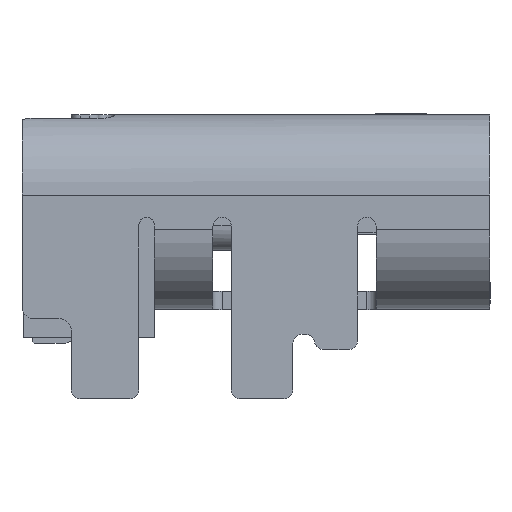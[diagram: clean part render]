
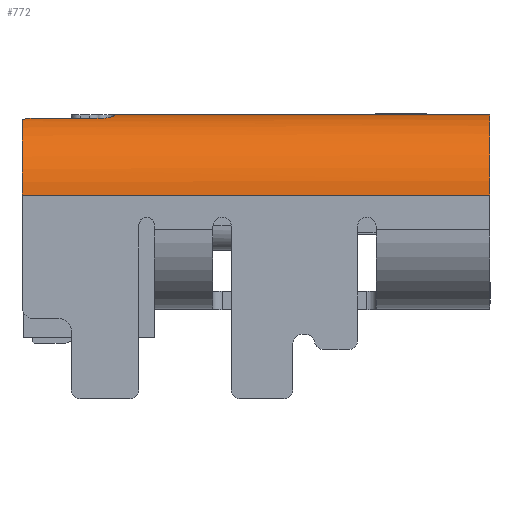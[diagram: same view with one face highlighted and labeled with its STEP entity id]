
A CAD part, left-side view. The second image highlights one B-rep face of the part: STEP entity #772.
In plain terms, the highlighted cylindrical face has radius 1.3 mm (diameter 2.6 mm), a partial arc.
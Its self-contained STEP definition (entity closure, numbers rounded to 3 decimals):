
#772 = ADVANCED_FACE ( 'NONE', ( #11300 ), #23499, .T. ) ;
#1054 = EDGE_CURVE ( 'NONE', #9412, #36254, #25395, .T. ) ;
#1444 = VERTEX_POINT ( 'NONE', #35022 ) ;
#3553 = CARTESIAN_POINT ( 'NONE',  ( 3.566, 7.544, -1.518 ) ) ;
#3965 = ORIENTED_EDGE ( 'NONE', *, *, #16748, .T. ) ;
#6577 = EDGE_CURVE ( 'NONE', #1444, #16086, #17908, .T. ) ;
#7388 = ORIENTED_EDGE ( 'NONE', *, *, #1054, .T. ) ;
#7713 = CARTESIAN_POINT ( 'NONE',  ( 3.556, 7.531, -1.521 ) ) ;
#7982 = CARTESIAN_POINT ( 'NONE',  ( 3.655, 7.599, -1.486 ) ) ;
#9412 = VERTEX_POINT ( 'NONE', #32437 ) ;
#10815 = CARTESIAN_POINT ( 'NONE',  ( 3.17, 7.6, -0.28 ) ) ;
#10895 = EDGE_CURVE ( 'NONE', #16086, #19910, #39307, .T. ) ;
#11026 = DIRECTION ( 'NONE',  ( 0., -1., 0. ) ) ;
#11039 = VECTOR ( 'NONE', #36094, 1000. ) ;
#11102 = VERTEX_POINT ( 'NONE', #15738 ) ;
#11143 = ORIENTED_EDGE ( 'NONE', *, *, #30288, .F. ) ;
#11300 = FACE_OUTER_BOUND ( 'NONE', #40870, .T. ) ;
#11447 = ORIENTED_EDGE ( 'NONE', *, *, #30992, .T. ) ;
#12141 = CARTESIAN_POINT ( 'NONE',  ( 3.63, 7.593, -1.496 ) ) ;
#12287 = DIRECTION ( 'NONE',  ( 0., 1., 0. ) ) ;
#14409 = CARTESIAN_POINT ( 'NONE',  ( 3.17, 0., -1.58 ) ) ;
#15738 = CARTESIAN_POINT ( 'NONE',  ( 3.676, 7.6, -1.477 ) ) ;
#16036 = CARTESIAN_POINT ( 'NONE',  ( 3.535, 7.467, -1.528 ) ) ;
#16086 = VERTEX_POINT ( 'NONE', #14409 ) ;
#16306 = CARTESIAN_POINT ( 'NONE',  ( 3.588, 7.568, -1.511 ) ) ;
#16748 = EDGE_CURVE ( 'NONE', #44303, #1444, #36361, .T. ) ;
#16853 = CARTESIAN_POINT ( 'NONE',  ( 3.535, 7.45, -1.528 ) ) ;
#17382 = CARTESIAN_POINT ( 'NONE',  ( 3.676, 7.6, -1.477 ) ) ;
#17908 = CIRCLE ( 'NONE', #23209, 1.3 ) ;
#19910 = VERTEX_POINT ( 'NONE', #40199 ) ;
#20089 = CARTESIAN_POINT ( 'NONE',  ( 3.338, 6.1, -1.569 ) ) ;
#20460 = CARTESIAN_POINT ( 'NONE',  ( 3.576, 7.557, -1.515 ) ) ;
#21855 = DIRECTION ( 'NONE',  ( 0., 1., 0. ) ) ;
#22269 = CARTESIAN_POINT ( 'NONE',  ( 3.338, 6.1, -1.569 ) ) ;
#23209 = AXIS2_PLACEMENT_3D ( 'NONE', #50271, #12287, #27487 ) ;
#23416 = DIRECTION ( 'NONE',  ( 0., 0., -1. ) ) ;
#23499 = CYLINDRICAL_SURFACE ( 'NONE', #47733, 1.3 ) ;
#23856 = AXIS2_PLACEMENT_3D ( 'NONE', #31471, #27578, #23416 ) ;
#24121 = ORIENTED_EDGE ( 'NONE', *, *, #6577, .T. ) ;
#24891 = CARTESIAN_POINT ( 'NONE',  ( 3.666, 7.6, -1.482 ) ) ;
#24974 = CARTESIAN_POINT ( 'NONE',  ( 4.47, 7.6, -0.28 ) ) ;
#25395 = LINE ( 'NONE', #42315, #26409 ) ;
#25467 = CARTESIAN_POINT ( 'NONE',  ( 3.17, 6.5, -1.58 ) ) ;
#25885 = CARTESIAN_POINT ( 'NONE',  ( 3.514, 6.195, -1.534 ) ) ;
#26409 = VECTOR ( 'NONE', #50363, 1000. ) ;
#26977 = CARTESIAN_POINT ( 'NONE',  ( 3.391, 6.1, -1.562 ) ) ;
#27487 = DIRECTION ( 'NONE',  ( 0., 0., -1. ) ) ;
#27578 = DIRECTION ( 'NONE',  ( 0., -1., 0. ) ) ;
#28008 = DIRECTION ( 'NONE',  ( 0., 0., -1. ) ) ;
#29050 = CARTESIAN_POINT ( 'NONE',  ( 3.602, 7.577, -1.506 ) ) ;
#30288 = EDGE_CURVE ( 'NONE', #44303, #11102, #39870, .T. ) ;
#30329 = CARTESIAN_POINT ( 'NONE',  ( 3.535, 6.3, -1.528 ) ) ;
#30992 = EDGE_CURVE ( 'NONE', #19910, #31109, #49548, .T. ) ;
#31109 = VERTEX_POINT ( 'NONE', #20089 ) ;
#31471 = CARTESIAN_POINT ( 'NONE',  ( 3.17, 6.1, -0.28 ) ) ;
#32195 = CARTESIAN_POINT ( 'NONE',  ( 4.47, 6.5, -0.28 ) ) ;
#32437 = CARTESIAN_POINT ( 'NONE',  ( 3.535, 6.3, -1.528 ) ) ;
#32560 = ORIENTED_EDGE ( 'NONE', *, *, #38607, .T. ) ;
#32645 = DIRECTION ( 'NONE',  ( 0., 0., -1. ) ) ;
#32930 = CARTESIAN_POINT ( 'NONE',  ( 3.538, 7.484, -1.527 ) ) ;
#33024 = B_SPLINE_CURVE_WITH_KNOTS ( 'NONE', 3,
 ( #22269, #26977, #35576, #25885, #43901, #30329 ),
 .UNSPECIFIED., .F., .F.,
 ( 4, 2, 4 ),
 ( 0., 0., 0. ),
 .UNSPECIFIED. ) ;
#33751 = CARTESIAN_POINT ( 'NONE',  ( 3.543, 7.5, -1.525 ) ) ;
#35022 = CARTESIAN_POINT ( 'NONE',  ( 4.47, 0., -0.28 ) ) ;
#35328 = ORIENTED_EDGE ( 'NONE', *, *, #10895, .T. ) ;
#35576 = CARTESIAN_POINT ( 'NONE',  ( 3.442, 6.121, -1.552 ) ) ;
#36094 = DIRECTION ( 'NONE',  ( 0., -1., 0. ) ) ;
#36254 = VERTEX_POINT ( 'NONE', #50814 ) ;
#36361 = LINE ( 'NONE', #32195, #11039 ) ;
#38607 = EDGE_CURVE ( 'NONE', #31109, #9412, #33024, .T. ) ;
#39307 = LINE ( 'NONE', #25467, #44795 ) ;
#39870 = CIRCLE ( 'NONE', #45955, 1.3 ) ;
#40199 = CARTESIAN_POINT ( 'NONE',  ( 3.17, 6.1, -1.58 ) ) ;
#40870 = EDGE_LOOP ( 'NONE', ( #24121, #35328, #11447, #32560, #7388, #54804, #11143, #3965 ) ) ;
#42315 = CARTESIAN_POINT ( 'NONE',  ( 3.535, 6.5, -1.528 ) ) ;
#42697 = EDGE_CURVE ( 'NONE', #36254, #11102, #52476, .T. ) ;
#43901 = CARTESIAN_POINT ( 'NONE',  ( 3.535, 6.247, -1.528 ) ) ;
#44303 = VERTEX_POINT ( 'NONE', #24974 ) ;
#44374 = DIRECTION ( 'NONE',  ( 0., 1., 0. ) ) ;
#44795 = VECTOR ( 'NONE', #21855, 1000. ) ;
#45121 = CARTESIAN_POINT ( 'NONE',  ( 3.17, 6.5, -0.28 ) ) ;
#45955 = AXIS2_PLACEMENT_3D ( 'NONE', #10815, #44374, #28008 ) ;
#45964 = CARTESIAN_POINT ( 'NONE',  ( 3.645, 7.596, -1.49 ) ) ;
#47733 = AXIS2_PLACEMENT_3D ( 'NONE', #45121, #11026, #32645 ) ;
#49548 = CIRCLE ( 'NONE', #23856, 1.3 ) ;
#50115 = CARTESIAN_POINT ( 'NONE',  ( 3.615, 7.586, -1.501 ) ) ;
#50271 = CARTESIAN_POINT ( 'NONE',  ( 3.17, 0., -0.28 ) ) ;
#50363 = DIRECTION ( 'NONE',  ( 0., 1., 0. ) ) ;
#50651 = CARTESIAN_POINT ( 'NONE',  ( 3.548, 7.515, -1.524 ) ) ;
#50814 = CARTESIAN_POINT ( 'NONE',  ( 3.535, 7.45, -1.528 ) ) ;
#52476 = B_SPLINE_CURVE_WITH_KNOTS ( 'NONE', 3,
 ( #16853, #16036, #32930, #33751, #50651, #7713, #3553, #20460, #16306, #29050, #50115, #12141, #45964, #7982, #24891, #17382 ),
 .UNSPECIFIED., .F., .F.,
 ( 4, 3, 3, 3, 3, 4 ),
 ( 0., 0., 0., 0., 0., 0. ),
 .UNSPECIFIED. ) ;
#54804 = ORIENTED_EDGE ( 'NONE', *, *, #42697, .T. ) ;
